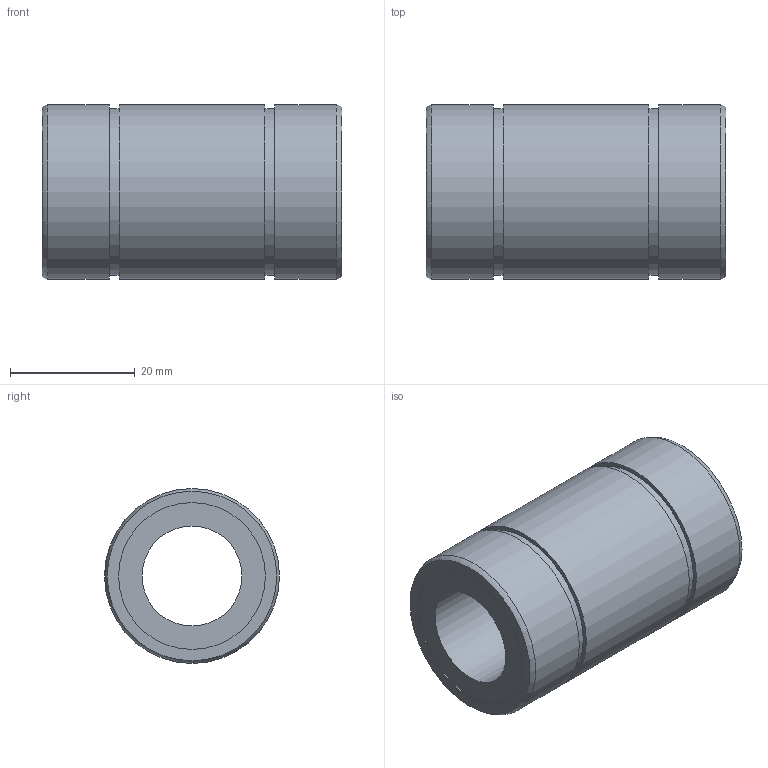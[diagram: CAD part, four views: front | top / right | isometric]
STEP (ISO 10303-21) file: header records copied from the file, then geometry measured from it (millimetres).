
FILE_DESCRIPTION((''),'2;1');
FILE_NAME('D:\製品 (図面)\カタログ用3D\メンテナンスフリー関連\STEP形式\L-MF\L16MF.stp','2010-06-01T16:12:49',('Tsuchiya'),(''),'Autodesk Inventor 10','Autodesk Inventor 10','');
FILE_SCHEMA(('AUTOMOTIVE_DESIGN { 1 0 10303 214 1 1 1 1 }'));
Length unit declared in the file: millimetre
Products named in the file (1): L16MF
Bounding box: 48 x 28 x 28 mm (x, y, z)
Volume: 19637 mm3; surface area: 7636 mm2
Topology: 1 solids, 1 shells, 18 faces, 28 edges, 18 vertices
Faces by surface type: cylinder 8, plane 8, torus 2
Full cylindrical faces by diameter (mm): 16 x1, 23.5 x2, 26.6 x2, 28 x3
Entity records: 391 total; most frequent: DIRECTION 74, CARTESIAN_POINT 55, AXIS2_PLACEMENT_3D 37, ORIENTED_EDGE 36, EDGE_LOOP 36, VERTEX_POINT 18, CIRCLE 18, EDGE_CURVE 18
